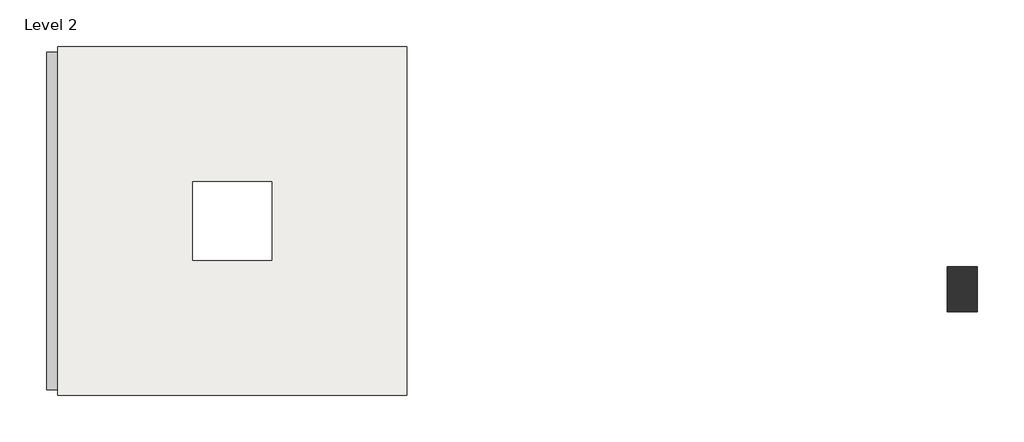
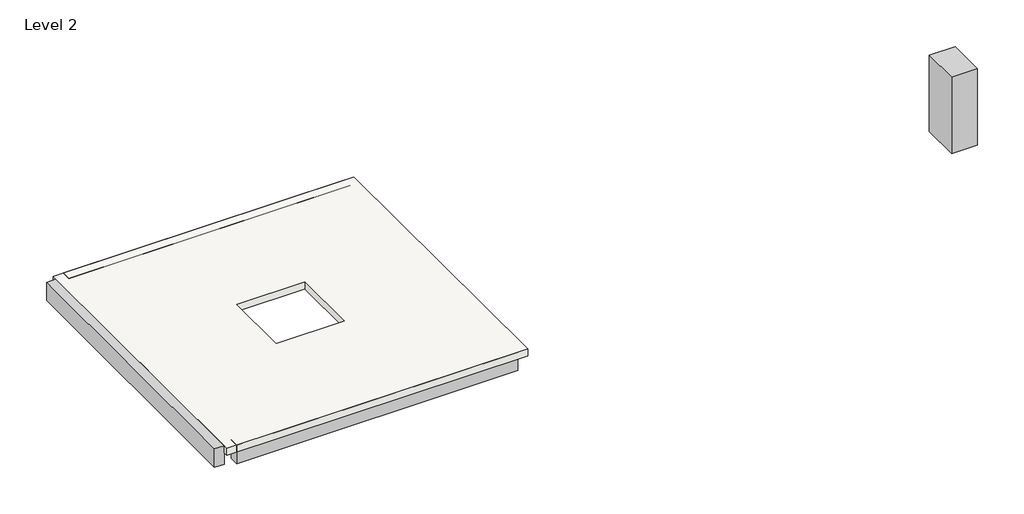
# One storey: 3 beams, 1 column, 1 slab.
"""IFC4 building model written with IfcOpenShell, lengths in millimetres."""

from ifc_helpers import new_model, si_unit, frame, origin, place, context, project, spatial, polyline, outline, extrude, transform, mapped, element, save
from components import m_concrete_rectangular_column_600_x_750mm_70c17375

model = new_model("IFC4")

# Units and contexts
model_context = context("Model", 3, world=origin())
ifc_project = project(units=[si_unit("LENGTHUNIT", "METRE", prefix="MILLI")], contexts=[model_context])

# Site, building, storey
site = spatial("IfcSite", under=ifc_project)
building = spatial("IfcBuilding", under=site)
storey = spatial("IfcBuildingStorey", under=building, Name="Level 2", Elevation=2700.0)

# Beams
placement = place(None, origin())
element("IfcBeam", 1, ObjectType="M_Concrete-Rectangular Beam : 300 x 600mm", at=placement, inside=storey, context=model_context, shape_type="SweptSolid", body=[
    extrude(outline(polyline([(-22349.8585971, 5814.3262593), (-22049.8585971, 5814.3262593), (-22049.8585971, -3185.6737407), (-22349.8585971, -3185.6737407), (-22349.8585971, 5814.3262593)])), frame((0.0, 0.0, 2100.0), z_axis=(0.0, 0.0, 1.0), x_axis=(1.0, 0.0, 0.0)), (0.0, 0.0, 1.0), 600.0),
])
element("IfcBeam", 2, ObjectType="M_Concrete-Rectangular Beam : 300 x 600mm", at=placement, inside=storey, context=model_context, shape_type="SweptSolid", body=[
    extrude(outline(polyline([(-21749.5589359, 5664.3262593), (-21749.5589359, 5964.3262593), (-13049.5589359, 5964.3262593), (-13049.5589359, 5664.3262593), (-21749.5589359, 5664.3262593)])), frame((0.0, 0.0, 2100.0), z_axis=(0.0, 0.0, 1.0), x_axis=(1.0, 0.0, 0.0)), (0.0, 0.0, 1.0), 600.0),
])
element("IfcBeam", 3, ObjectType="M_Concrete-Rectangular Beam : 300 x 600mm", at=placement, inside=storey, context=model_context, shape_type="SweptSolid", body=[
    extrude(outline(polyline([(-21749.5589359, -3335.6737407), (-21749.5589359, -3035.6737407), (-13049.5589359, -3035.6737407), (-13049.5589359, -3335.6737407), (-21749.5589359, -3335.6737407)])), frame((0.0, 0.0, 2100.0), z_axis=(0.0, 0.0, 1.0), x_axis=(1.0, 0.0, 0.0)), (0.0, 0.0, 1.0), 600.0),
])

# Column
m_concrete_rectangular_column_600_x_750mm_shape = m_concrete_rectangular_column_600_x_750mm_70c17375(model_context)
element("IfcColumn", 4, ObjectType="M_Concrete-Rectangular-Column : 600 x 750mm", at=placement, inside=storey, context=model_context, shape_type="MappedRepresentation", body=[
    mapped(m_concrete_rectangular_column_600_x_750mm_shape, transform((2063.6329779, -500.8037364, 0.0), x_axis=(1.0, 0.0, 0.0), y_axis=(0.0, 1.0, 0.0), z_axis=(0.0, 0.0, 1.0))),
])

# Slab
element("IfcSlab", 5, ObjectType="Insitu Concrete 225mm", at=placement, inside=storey, context=model_context, shape_type="SweptSolid", body=[
    extrude(outline(polyline([(-12749.5589359, 5964.3262593), (-12749.5589359, -3335.6737407), (-22049.5589359, -3335.6737407), (-22049.5589359, 5964.3262593), (-12749.5589359, 5964.3262593)]), holes=[polyline([(-16349.5589359, 2364.3262593), (-18449.5589359, 2364.3262593), (-18449.5589359, 264.3262593), (-16349.5589359, 264.3262593), (-16349.5589359, 2364.3262593)])]), frame((0.0, 0.0, 2475.0), z_axis=(0.0, 0.0, 1.0), x_axis=(1.0, 0.0, 0.0)), (0.0, 0.0, 1.0), 225.0),
])

save(model, "model.ifc")
